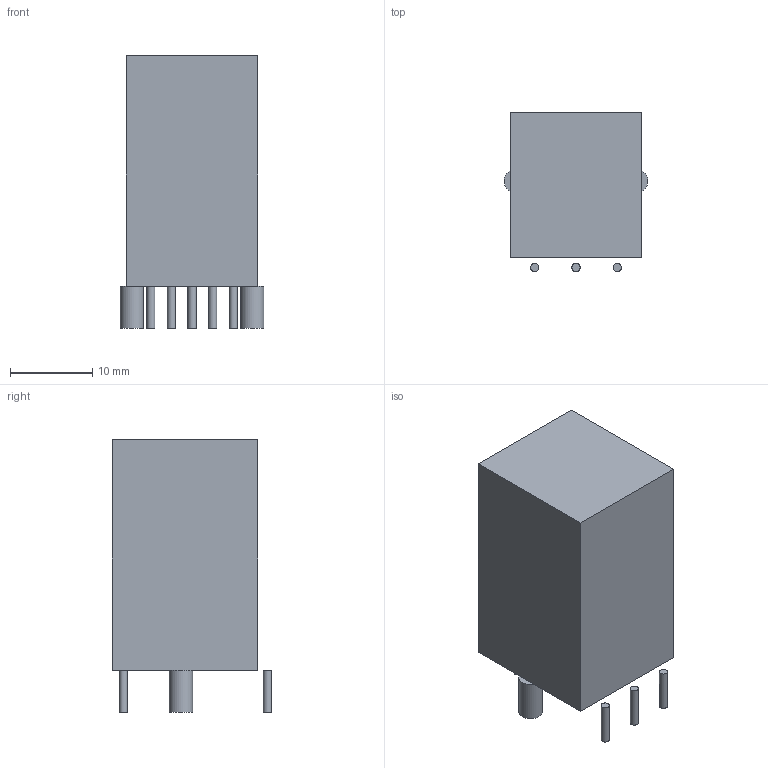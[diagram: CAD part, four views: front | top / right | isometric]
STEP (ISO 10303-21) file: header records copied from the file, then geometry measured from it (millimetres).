
FILE_DESCRIPTION(('FreeCAD Model'),'2;1');
FILE_NAME('/var/www/3D/0T/18423232.1.7.stp','2023-07-17T10:24:01',( 'Author'),(''),'Open CASCADE STEP processor 6.9','FreeCAD','Unknown' );
FILE_SCHEMA(('AUTOMOTIVE_DESIGN { 1 0 10303 214 1 1 1 1 }'));
Length unit declared in the file: millimetre
Products named in the file (3): ASSEMBLY; Body; Leads
Assembly tree (2 placements, depth 2):
  ASSEMBLY
    Body
    Leads
Bounding box: 17.44 x 19.3 x 33.1 mm (x, y, z)
Volume: 7969.4 mm3; surface area: 2649.1 mm2
Topology: 8 solids, 8 shells, 27 faces, 33 edges, 22 vertices
Faces by surface type: plane 20, cylinder 7
Full cylindrical faces by diameter (mm): 1 x5, 2.84 x2
Entity records: 1078 total; most frequent: DIRECTION 173, CARTESIAN_POINT 151, LINE 71, VECTOR 71, ORIENTED_EDGE 66, PCURVE 66, DEFINITIONAL_REPRESENTATION 66, AXIS2_PLACEMENT_3D 44
